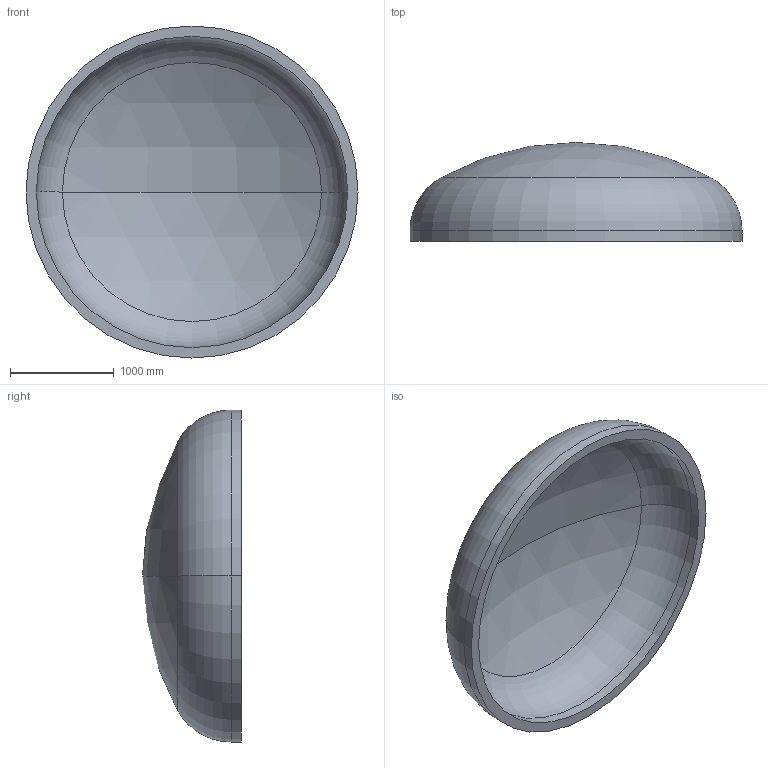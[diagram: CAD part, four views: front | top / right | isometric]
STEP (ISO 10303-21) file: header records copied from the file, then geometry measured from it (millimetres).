
FILE_DESCRIPTION (( 'STEP AP203' ), '1' );
FILE_NAME ('DIN 28013 Korbbogenform_-_Boden DIN 28013 - 3200 x 100 - I - s=100.step', '2016-07-01T18:58:22', ( '' ), ( '' ), 'SwSTEP 2.0', 'SolidWorks 2013', '' );
FILE_SCHEMA (( 'CONFIG_CONTROL_DESIGN' ));
Length unit declared in the file: millimetre
Products named in the file (1): DIN 28013 Korbbogenform_-_Boden DIN 28013 - 3200 x 100 - I - s=100
Bounding box: 3200 x 953.12 x 3200 mm (x, y, z)
Volume: 1165525426 mm3; surface area: 24305338.6 mm2
Topology: 1 solids, 1 shells, 13 faces, 24 edges, 14 vertices
Faces by surface type: torus 4, cylinder 4, sphere 4, plane 1
Entity records: 407 total; most frequent: DIRECTION 72, CARTESIAN_POINT 52, ORIENTED_EDGE 48, AXIS2_PLACEMENT_3D 34, EDGE_CURVE 24, CIRCLE 20, EDGE_LOOP 14, VERTEX_POINT 14
